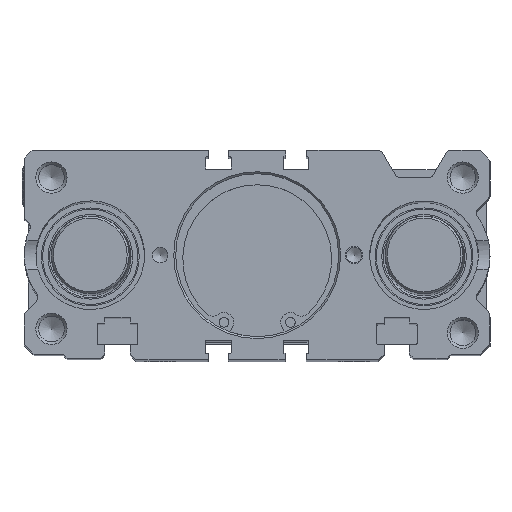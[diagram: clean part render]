
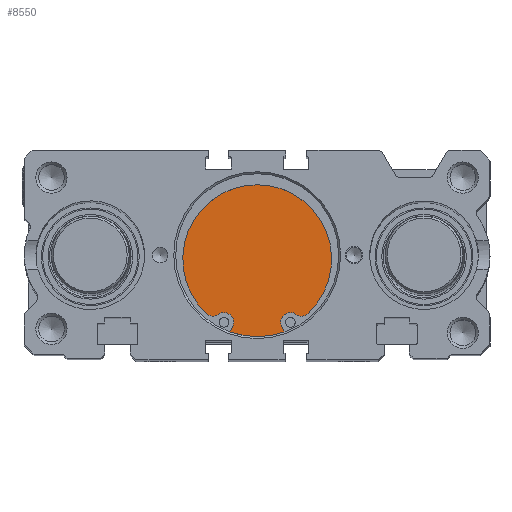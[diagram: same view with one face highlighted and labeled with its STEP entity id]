
A CAD part, top view. The second image highlights one B-rep face of the part: STEP entity #8550.
In plain terms, the highlighted planar face has unit normal (0, 0, 1).
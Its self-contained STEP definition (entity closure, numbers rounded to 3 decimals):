
#373=CIRCLE('',#9174,21.);
#384=CIRCLE('',#9199,2.5);
#385=CIRCLE('',#9200,2.5);
#386=CIRCLE('',#9201,19.175);
#387=CIRCLE('',#9202,2.5);
#388=CIRCLE('',#9203,2.5);
#1819=ORIENTED_EDGE('',*,*,#2783,.T.);
#1820=ORIENTED_EDGE('',*,*,#2784,.T.);
#1821=ORIENTED_EDGE('',*,*,#2785,.T.);
#1822=ORIENTED_EDGE('',*,*,#2786,.T.);
#1823=ORIENTED_EDGE('',*,*,#2787,.T.);
#1824=ORIENTED_EDGE('',*,*,#2788,.T.);
#1825=ORIENTED_EDGE('',*,*,#2789,.T.);
#1826=ORIENTED_EDGE('',*,*,#2761,.T.);
#2761=EDGE_CURVE('',#3378,#3377,#373,.T.);
#2783=EDGE_CURVE('',#3377,#3390,#3854,.T.);
#2784=EDGE_CURVE('',#3390,#3391,#384,.T.);
#2785=EDGE_CURVE('',#3391,#3392,#385,.T.);
#2786=EDGE_CURVE('',#3392,#3393,#386,.T.);
#2787=EDGE_CURVE('',#3393,#3394,#387,.T.);
#2788=EDGE_CURVE('',#3394,#3395,#388,.T.);
#2789=EDGE_CURVE('',#3395,#3378,#3855,.T.);
#3377=VERTEX_POINT('',#12607);
#3378=VERTEX_POINT('',#12609);
#3390=VERTEX_POINT('',#12657);
#3391=VERTEX_POINT('',#12659);
#3392=VERTEX_POINT('',#12661);
#3393=VERTEX_POINT('',#12663);
#3394=VERTEX_POINT('',#12665);
#3395=VERTEX_POINT('',#12667);
#3854=LINE('',#12656,#4280);
#3855=LINE('',#12668,#4281);
#4280=VECTOR('',#10800,1000.);
#4281=VECTOR('',#10811,1000.);
#4738=EDGE_LOOP('',(#1819,#1820,#1821,#1822,#1823,#1824,#1825,#1826));
#5313=FACE_BOUND('',#4738,.T.);
#5627=PLANE('',#9198);
#8550=ADVANCED_FACE('',(#5313),#5627,.T.);
#9174=AXIS2_PLACEMENT_3D('',#12608,#10739,#10740);
#9198=AXIS2_PLACEMENT_3D('',#12655,#10798,#10799);
#9199=AXIS2_PLACEMENT_3D('',#12658,#10801,#10802);
#9200=AXIS2_PLACEMENT_3D('',#12660,#10803,#10804);
#9201=AXIS2_PLACEMENT_3D('',#12662,#10805,#10806);
#9202=AXIS2_PLACEMENT_3D('',#12664,#10807,#10808);
#9203=AXIS2_PLACEMENT_3D('',#12666,#10809,#10810);
#10739=DIRECTION('',(0.,0.,1.));
#10740=DIRECTION('',(1.,0.,0.));
#10798=DIRECTION('',(0.,0.,1.));
#10799=DIRECTION('',(1.,0.,0.));
#10800=DIRECTION('',(-0.444,0.896,0.));
#10801=DIRECTION('',(0.,0.,-1.));
#10802=DIRECTION('',(-0.896,-0.444,0.));
#10803=DIRECTION('',(0.,0.,1.));
#10804=DIRECTION('',(-0.684,0.729,0.));
#10805=DIRECTION('',(0.,0.,1.));
#10806=DIRECTION('',(0.684,0.729,0.));
#10807=DIRECTION('',(0.,0.,1.));
#10808=DIRECTION('',(-0.569,0.822,0.));
#10809=DIRECTION('',(0.,0.,-1.));
#10810=DIRECTION('',(-0.569,0.822,0.));
#10811=DIRECTION('',(-0.444,-0.896,0.));
#12607=CARTESIAN_POINT('',(7.007,-19.797,240.));
#12608=CARTESIAN_POINT('',(0.,0.,240.));
#12609=CARTESIAN_POINT('',(-7.007,-19.797,240.));
#12655=CARTESIAN_POINT('',(0.,0.,240.));
#12656=CARTESIAN_POINT('',(2.662,-11.017,240.));
#12657=CARTESIAN_POINT('',(6.319,-18.407,240.));
#12658=CARTESIAN_POINT('',(8.56,-17.298,240.));
#12659=CARTESIAN_POINT('',(9.983,-15.243,240.));
#12660=CARTESIAN_POINT('',(11.407,-13.188,240.));
#12661=CARTESIAN_POINT('',(13.117,-15.011,240.));
#12662=CARTESIAN_POINT('',(0.,-1.025,240.));
#12663=CARTESIAN_POINT('',(-13.117,-15.011,240.));
#12664=CARTESIAN_POINT('',(-11.407,-13.188,240.));
#12665=CARTESIAN_POINT('',(-9.983,-15.243,240.));
#12666=CARTESIAN_POINT('',(-8.56,-17.298,240.));
#12667=CARTESIAN_POINT('',(-6.319,-18.407,240.));
#12668=CARTESIAN_POINT('',(-2.039,-9.758,240.));
